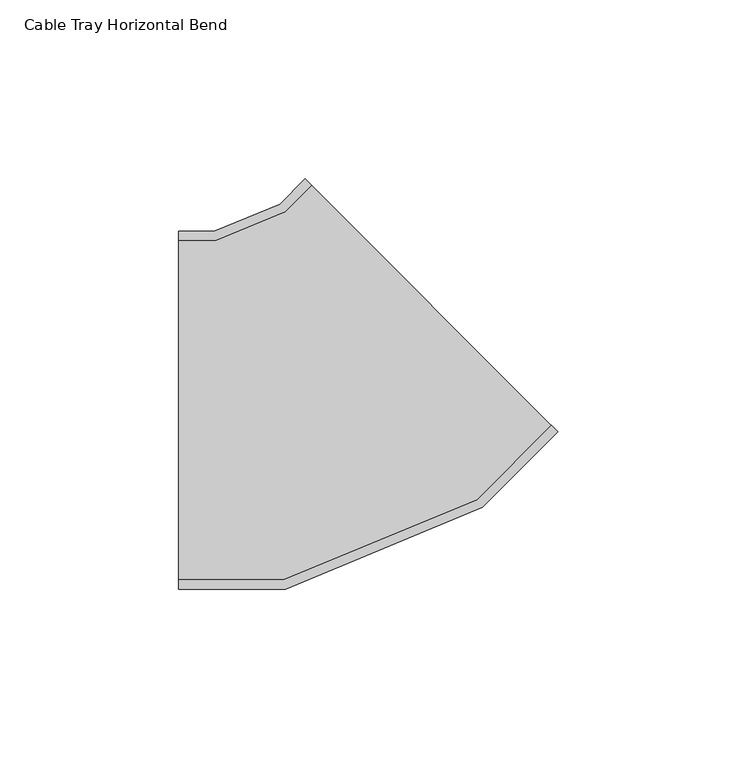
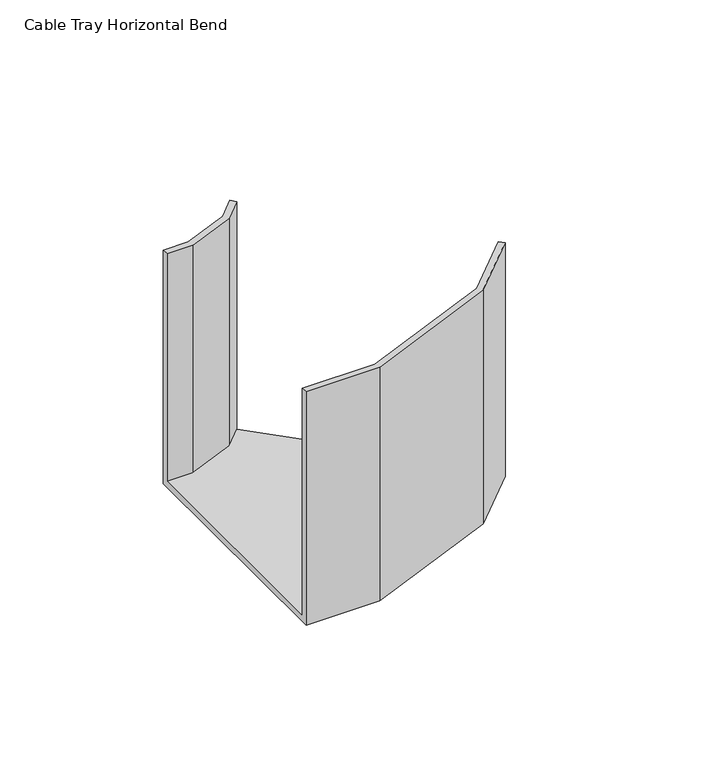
"""IFC4 building model written with IfcOpenShell, lengths in millimetres: cable carrier fitting geometry, Cable Tray Horizontal Bend : ELEC_ELV_TKG_N2402."""

from ifc_helpers import new_model, si_unit, origin, place, context, project, spatial, faceted_brep, source, transform, mapped, element, save


def cable_tray_horizontal_bend_1fa7739e(model_context):
    return source(origin(), model_context, "Body", "Brep", [
        faceted_brep([(-41.4215952, -50.0, -50.0), (-41.4215952, -50.0, 50.0), (-41.4215952, -47.46, 50.0), (-41.4215952, -47.46, -47.46), (-41.4215952, 47.46, -47.46), (-41.4215952, 47.46, 50.0), (-41.4215952, 50.0, 50.0), (-41.4215952, 50.0, -50.0), (64.6448546, -6.0655845, -50.0), (-6.0661119, 64.6448052, -50.0), (-6.0661119, 64.6448052, 50.0), (-4.2700534, 62.8487613, 50.0), (-4.2700534, 62.8487613, -47.46), (62.8487961, -4.2695406, -47.46), (62.8487961, -4.2695406, 50.0), (64.6448546, -6.0655845, 50.0), (-11.5845811, -50.0, -50.0), (-11.5845811, -50.0, 50.0), (43.5469857, -27.1636256, 50.0), (42.1081844, -25.0103216, 50.0), (-12.0898212, -47.46, 50.0), (-12.0898212, -47.46, -47.46), (42.1081844, -25.0103216, -47.46), (-11.6599336, 55.4588207, -47.46), (-30.9706837, 47.46, -47.46), (-30.9706837, 47.46, 50.0), (-11.6599336, 55.4588207, 50.0), (-13.0987349, 57.6121248, 50.0), (-31.4759238, 50.0, 50.0), (-31.4759238, 50.0, -50.0), (-13.0987349, 57.6121248, -50.0), (43.5469857, -27.1636256, -50.0)], [[[0, 1, 2, 3, 4, 5, 6, 7]], [[8, 9, 10, 11, 12, 13, 14, 15]], [[1, 0, 16, 17]], [[2, 1, 17, 18, 15, 14, 19, 20]], [[3, 2, 20, 21]], [[4, 3, 21, 22, 13, 12, 23, 24]], [[5, 4, 24, 25]], [[6, 5, 25, 26, 11, 10, 27, 28]], [[7, 6, 28, 29]], [[0, 7, 29, 30, 9, 8, 31, 16]], [[17, 16, 31, 18]], [[21, 20, 19, 22]], [[25, 24, 23, 26]], [[29, 28, 27, 30]], [[18, 31, 8, 15]], [[22, 19, 14, 13]], [[26, 23, 12, 11]], [[30, 27, 10, 9]]]),
    ])


if __name__ == "__main__":
    model = new_model("IFC4")
    model_context = context("Model", 3, world=origin())
    ifc_project = project(units=[si_unit("LENGTHUNIT", "METRE", prefix="MILLI")], contexts=[model_context])
    site = spatial("IfcSite", under=ifc_project)
    building = spatial("IfcBuilding", under=site)
    placement = place(None, origin())
    cable_tray_horizontal_bend_shape = cable_tray_horizontal_bend_1fa7739e(model_context)
    element("IfcCableCarrierFitting", 1, ObjectType="Cable Tray Horizontal Bend : ELEC_ELV_TKG_N2402", at=placement, inside=building, context=model_context, shape_type="MappedRepresentation", body=[
        mapped(cable_tray_horizontal_bend_shape, transform((0.0, 0.0, 0.0), x_axis=(1.0, 0.0, 0.0), y_axis=(0.0, 1.0, 0.0), z_axis=(0.0, 0.0, 1.0))),
    ])
    save(model, "model.ifc")
